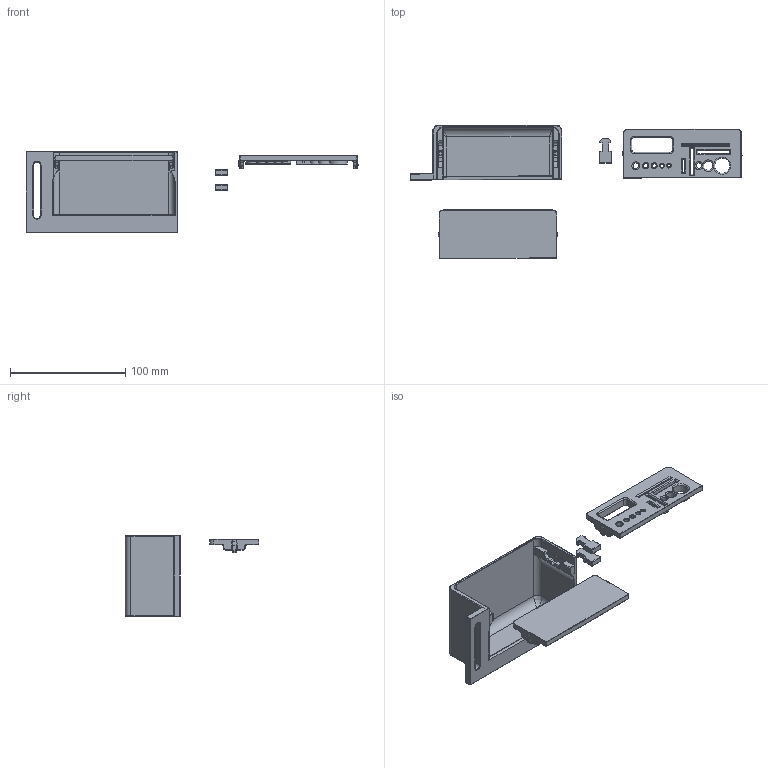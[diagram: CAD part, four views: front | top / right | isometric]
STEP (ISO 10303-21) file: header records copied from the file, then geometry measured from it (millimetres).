
FILE_DESCRIPTION(/* description */ (''),/* implementation_level */ '2;1');
FILE_NAME(/* name */ 'Tool Holder v93.step',/* time_stamp */ '2023-02-25T06:09:45-05:00',/* author */ (''),/* organization */ (''),/* preprocessor_version */ 'ST-DEVELOPER v19.2',/* originating_system */ 'Autodesk Translation Framework v11.17.0.187',/* authorisation */ '');
FILE_SCHEMA (('AUTOMOTIVE_DESIGN { 1 0 10303 214 3 1 1 }'));
Length unit declared in the file: millimetre
Products named in the file (1): Tool Holder
Bounding box: 287.89 x 115.89 x 70 mm (x, y, z)
Volume: 107209.6 mm3; surface area: 68696.1 mm2
Topology: 5 solids, 5 shells, 750 faces, 1801 edges, 1046 vertices
Faces by surface type: cylinder 332, plane 166, bspline 116, torus 110, sphere 26
Full cylindrical faces by diameter (mm): 2.4 x1, 2.8 x1, 3.4 x1, 3.9 x1, 5 x3, 5.4 x1, 6 x1, 6.5 x1, 7.8 x1, 8 x1, 13 x1
Entity records: 25154 total; most frequent: CARTESIAN_POINT 7879, DIRECTION 3749, ORIENTED_EDGE 3560, EDGE_CURVE 1780, AXIS2_PLACEMENT_3D 1494, VERTEX_POINT 1046, EDGE_LOOP 784, LINE 761
